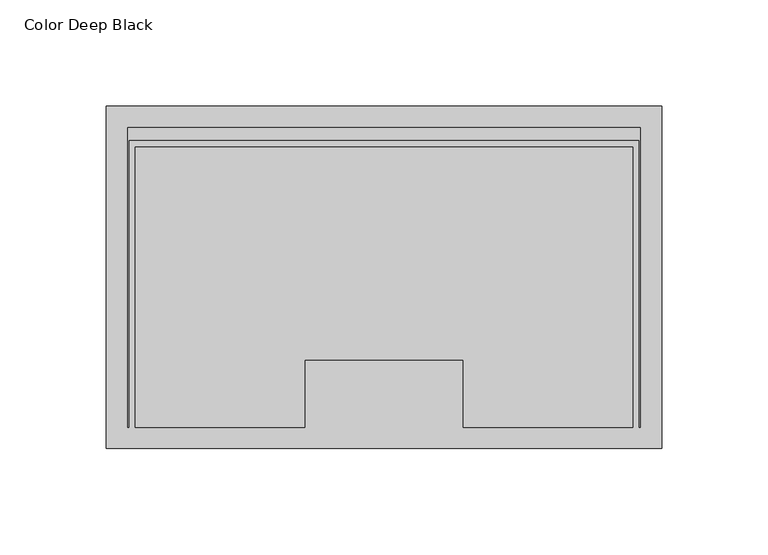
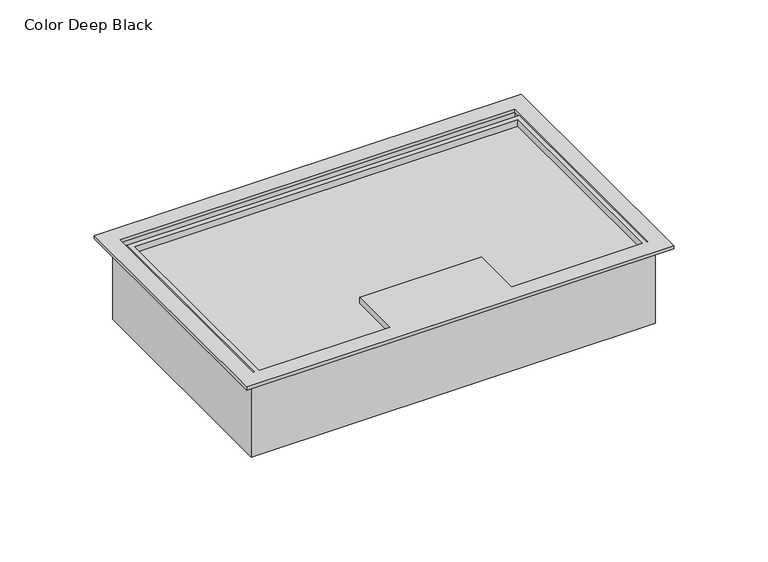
"""IFC4 building model written with IfcOpenShell, lengths in millimetres: proxy geometry, Electrical_Installation_Hager_VE-EE_Cover-KDE04 : Color Deep Black."""

from ifc_helpers import new_model, si_unit, frame, origin, place, context, project, spatial, polyline, outline, extrude, faceted_brep, source, transform, mapped, element, save


def color_deep_black_142afe5e(model_context):
    return source(origin(), model_context, "Body", "SolidModel", [
        faceted_brep([(130.5, 80.5, 2.0), (-130.5, 80.5, 2.0), (-130.5, -80.5, 2.0), (130.5, -80.5, 2.0), (117.0, 61.25, 2.0), (117.0, -70.5, 2.0), (37.25, -70.5, 2.0), (37.25, -38.75, 2.0), (-37.25, -38.75, 2.0), (-37.25, -70.5, 2.0), (-117.0, -70.5, 2.0), (-117.0, 61.25, 2.0), (120.0, 64.5, 2.0), (-120.0, 64.5, 2.0), (-120.0, -70.5, 2.0), (-120.5, -70.5, 2.0), (-120.5, 70.5, 2.0), (120.5, 70.5, 2.0), (120.5, -70.5, 2.0), (120.0, -70.5, 2.0), (120.0, 64.5, -2.0), (120.0, -75.5, -2.0), (34.0, -75.5, -2.0), (-33.5, -75.5, -2.0), (-120.0, -75.5, -2.0), (-120.0, 64.5, -2.0), (117.0, 61.25, -2.0), (-117.0, 61.25, -2.0), (-117.0, -70.5, -2.0), (-37.25, -70.5, -2.0), (-37.25, -38.75, -2.0), (37.25, -38.75, -2.0), (37.25, -70.5, -2.0), (117.0, -70.5, -2.0), (117.0, -70.5, 0.0), (37.25, -70.5, 0.0), (-37.25, -70.5, 0.0), (-117.0, -70.5, 0.0), (-120.0, -75.5, 0.0), (-120.0, -70.5, 0.0), (-33.5, -75.5, 0.0), (34.0, -75.5, 0.0), (120.0, -75.5, 0.0), (120.0, -70.5, 0.0), (130.5, 80.5, 0.0), (130.5, -80.5, 0.0), (-130.5, -80.5, 0.0), (-130.5, 80.5, 0.0), (120.5, 70.5, 0.0), (-120.5, 70.5, 0.0), (-120.5, -70.5, 0.0), (120.5, -70.5, 0.0)], [[[0, 1, 2, 3], [4, 5, 6, 7, 8, 9, 10, 11], [12, 13, 14, 15, 16, 17, 18, 19]], [[20, 21, 22, 23, 24, 25], [26, 27, 28, 29, 30, 31, 32, 33]], [[5, 4, 26, 33, 34]], [[6, 5, 34, 33, 32, 35]], [[7, 6, 35, 32, 31]], [[8, 7, 31, 30]], [[9, 8, 30, 29, 36]], [[10, 9, 36, 29, 28, 37]], [[11, 10, 37, 28, 27]], [[4, 11, 27, 26]], [[13, 12, 20, 25]], [[25, 24, 38, 39, 14, 13]], [[24, 23, 40, 38]], [[23, 22, 41, 40]], [[22, 21, 42, 41]], [[21, 20, 12, 19, 43, 42]], [[44, 45, 46, 47], [48, 49, 50, 39, 38, 40, 41, 42, 43, 51]], [[1, 0, 44, 47]], [[2, 1, 47, 46]], [[3, 2, 46, 45]], [[0, 3, 45, 44]], [[18, 17, 48, 51]], [[16, 15, 50, 49]], [[17, 16, 49, 48]], [[18, 51, 43, 19]], [[50, 15, 14, 39]]]),
        extrude(outline(polyline([(120.5, 70.5), (120.5, -70.5), (-120.5, -70.5), (-120.5, 70.5), (120.5, 70.5)])), frame((0.0, 0.0, -11.0), z_axis=(0.0, 0.0, 1.0), x_axis=(1.0, 0.0, 0.0)), (0.0, 0.0, 1.0), 5.0),
        extrude(outline(polyline([(123.5, -73.5), (-123.5, -73.5), (-123.5, 73.5), (123.5, 73.5), (123.5, -73.5)]), holes=[polyline([(120.5, -70.5), (120.5, 70.5), (-120.5, 70.5), (-120.5, -70.5), (120.5, -70.5)])]), frame((0.0, 0.0, -50.0), z_axis=(0.0, 0.0, 1.0), x_axis=(1.0, 0.0, 0.0)), (0.0, 0.0, 1.0), 50.0),
    ])


if __name__ == "__main__":
    model = new_model("IFC4")
    model_context = context("Model", 3, world=origin())
    ifc_project = project(units=[si_unit("LENGTHUNIT", "METRE", prefix="MILLI")], contexts=[model_context])
    site = spatial("IfcSite", under=ifc_project)
    building = spatial("IfcBuilding", under=site)
    placement = place(None, origin())
    color_deep_black_shape = color_deep_black_142afe5e(model_context)
    element("IfcBuildingElementProxy", 1, Name="Electrical_Installation_Hager_VE-EE_Cover-KDE04 : Color Deep Black", ObjectType="Electrical_Installation_Hager_VE-EE_Cover-KDE04 : Color Deep Black", at=placement, inside=building, context=model_context, shape_type="MappedRepresentation", body=[
        mapped(color_deep_black_shape, transform((0.0, 0.0, 0.0), x_axis=(1.0, 0.0, 0.0), y_axis=(0.0, 1.0, 0.0), z_axis=(0.0, 0.0, 1.0))),
    ])
    save(model, "model.ifc")
